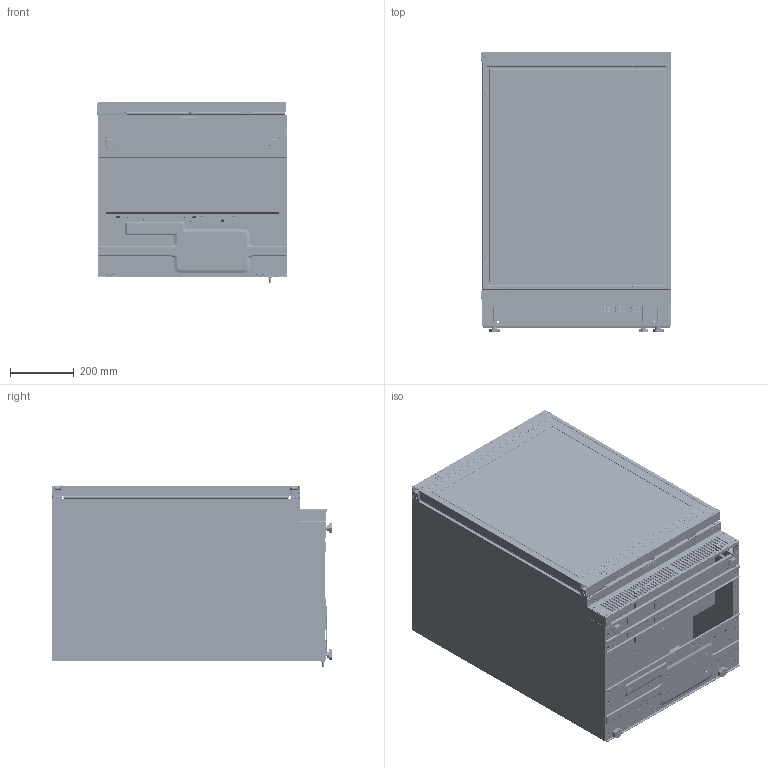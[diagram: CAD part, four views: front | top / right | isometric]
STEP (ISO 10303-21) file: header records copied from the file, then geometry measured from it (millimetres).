
FILE_DESCRIPTION((''),'2;1');
FILE_NAME('PRT0001','2025-04-25T12:00:11',('vii'),(''),'CREO PARAMETRIC BY PTC INC, 2018050','CREO PARAMETRIC BY PTC INC, 2018050','');
FILE_SCHEMA(('CONFIG_CONTROL_DESIGN','SHAPE_APPEARANCE_LAYERS_GROUPS'));
Products named in the file (1): PRT0001
Bounding box: 595.99 x 880 x 569.89 mm (x, y, z)
Surface area: 8555611.5 mm2 (no closed solid volume)
Topology: 0 solids, 52 shells, 7634 faces, 20452 edges, 12820 vertices
Faces by surface type: plane 3755, cylinder 2792, torus 454, bspline 264, cone 174, sphere 153, extrusion 42
Entity records: 300511 total; most frequent: CARTESIAN_POINT 62856, ORIENTED_EDGE 40592, DIRECTION 39677, EDGE_CURVE 20296, AXIS2_PLACEMENT_3D 13894, VERTEX_POINT 12820, VECTOR 11889, LINE 11847
